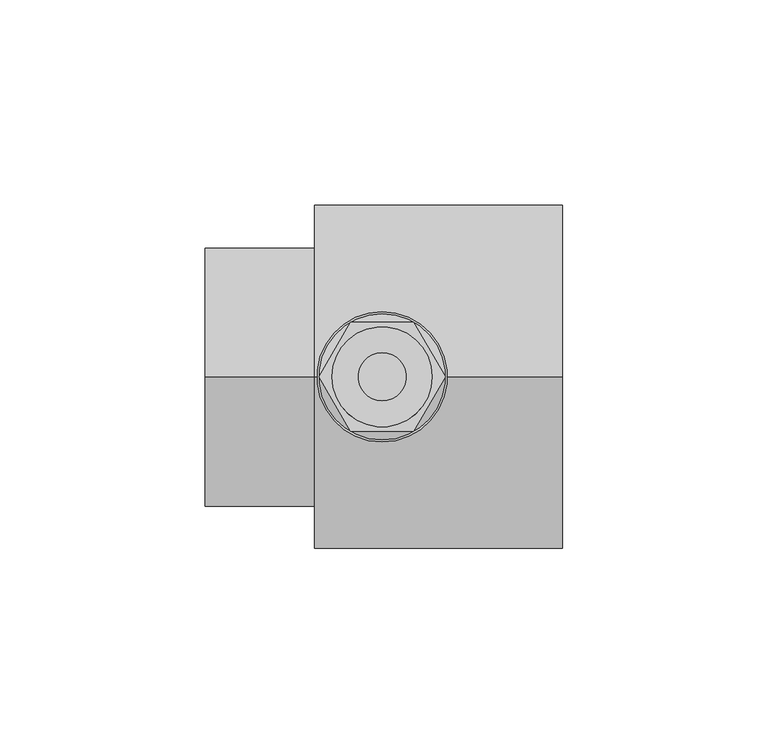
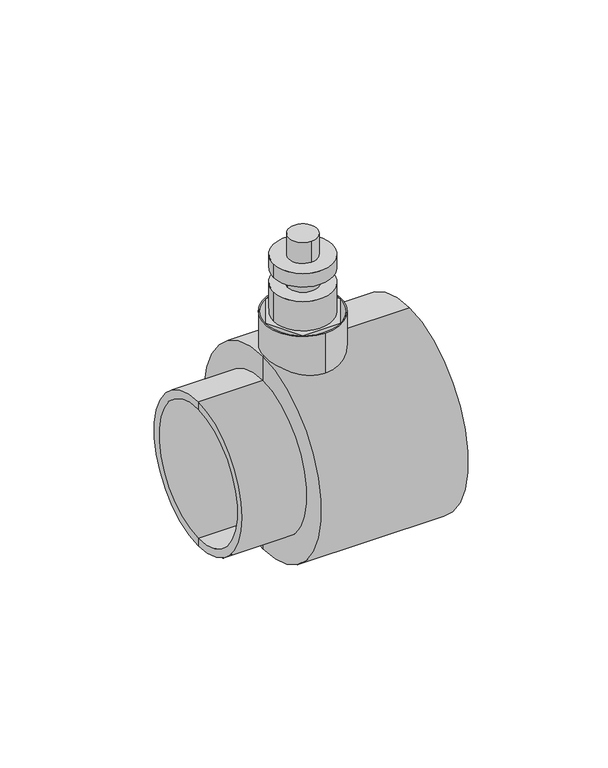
"""IFC4 building model written with IfcOpenShell, lengths in millimetres: valve geometry, Aquatherm - Draining Branch : DRAINING BRANCH."""

from ifc_helpers import new_model, si_unit, point, frame, origin, origin_2d, place, context, project, spatial, polyline, circle_curve, trimmed, segment, composite_curve, outline, extrude, source, transform, mapped, element, save
from ifc_brep_helpers import plane_surface, cylinder_surface, revolved_surface, advanced_brep


def valve_eb03968a(model_context):
    return source(origin(), model_context, "Body", "SolidModel", [
        extrude(outline(composite_curve([segment(trimmed(circle_curve(origin_2d(), 5.842), [point((0.0, 5.842))], [point((0.0, -5.842))], False, "CARTESIAN"), True, "CONTINUOUS"), segment(trimmed(circle_curve(origin_2d(), 5.842), [point((0.0, -5.842))], [point((0.0, 5.842))], False, "CARTESIAN"), True, "CONTINUOUS")], self_intersect=False)), frame((0.0, 0.0, 80.772), z_axis=(0.0, 0.0, 1.0), x_axis=(1.0, 0.0, 0.0)), (0.0, 0.0, 1.0), 9.144),
        extrude(outline(composite_curve([segment(trimmed(circle_curve(origin_2d(), 12.192), [point((12.192, 0.0))], [point((-12.192, 0.0))], False, "CARTESIAN"), True, "CONTINUOUS"), segment(trimmed(circle_curve(origin_2d(), 12.192), [point((-12.192, 0.0))], [point((12.192, 0.0))], False, "CARTESIAN"), True, "CONTINUOUS")], self_intersect=False)), frame((0.0, 0.0, 74.93), z_axis=(0.0, 0.0, 1.0), x_axis=(1.0, 0.0, 0.0)), (0.0, 0.0, 1.0), 5.842),
        extrude(outline(composite_curve([segment(trimmed(circle_curve(origin_2d(), 6.35), [point((6.35, 0.0))], [point((-6.35, 0.0))], False, "CARTESIAN"), True, "CONTINUOUS"), segment(trimmed(circle_curve(origin_2d(), 6.35), [point((-6.35, 0.0))], [point((6.35, 0.0))], False, "CARTESIAN"), True, "CONTINUOUS")], self_intersect=False)), frame((0.0, 0.0, 68.58), z_axis=(0.0, 0.0, 1.0), x_axis=(1.0, 0.0, 0.0)), (0.0, 0.0, 1.0), 6.35),
        extrude(outline(composite_curve([segment(trimmed(circle_curve(origin_2d(), 12.192), [point((12.192, 0.0))], [point((-12.192, 0.0))], False, "CARTESIAN"), True, "CONTINUOUS"), segment(trimmed(circle_curve(origin_2d(), 12.192), [point((-12.192, 0.0))], [point((12.192, 0.0))], False, "CARTESIAN"), True, "CONTINUOUS")], self_intersect=False)), frame((0.0, 0.0, 55.88), z_axis=(0.0, 0.0, 1.0), x_axis=(1.0, 0.0, 0.0)), (0.0, 0.0, 1.0), 12.7),
        extrude(outline(polyline([(15.367, 0.0), (7.6835, -13.3082124), (-7.6835, -13.3082124), (-15.367, 0.0), (-7.6835, 13.3082124), (7.6835, 13.3082124), (15.367, 0.0)])), frame((0.0, 0.0, 52.578), z_axis=(0.0, 0.0, 1.0), x_axis=(1.0, 0.0, 0.0)), (0.0, 0.0, 1.0), 3.302),
        extrude(outline(composite_curve([segment(trimmed(circle_curve(origin_2d(), 15.875), [point((0.0, 15.875))], [point((0.0, -15.875))], False, "CARTESIAN"), True, "CONTINUOUS"), segment(trimmed(circle_curve(origin_2d(), 15.875), [point((0.0, -15.875))], [point((0.0, 15.875))], False, "CARTESIAN"), True, "CONTINUOUS")], self_intersect=False), holes=[composite_curve([segment(trimmed(circle_curve(origin_2d(), 15.367), [point((0.0, 15.367))], [point((0.0, -15.367))], True, "CARTESIAN"), True, "CONTINUOUS"), segment(trimmed(circle_curve(origin_2d(), 15.367), [point((0.0, -15.367))], [point((0.0, 15.367))], True, "CARTESIAN"), True, "CONTINUOUS")], self_intersect=False)]), frame((0.0, 0.0, 28.194), z_axis=(0.0, 0.0, 1.0), x_axis=(1.0, 0.0, 0.0)), (0.0, 0.0, 1.0), 27.686),
        advanced_brep(
        [(-16.51, 0.0, -42.037), (-16.51, 0.0, 42.037), (43.942, 0.0, 42.037), (43.942, 0.0, -42.037), (-16.51, 0.0, -31.496), (-16.51, 0.0, 31.496), (-43.18, 0.0, -31.496), (-43.18, 0.0, 31.496), (-43.18, 0.0, -28.194), (-43.18, 0.0, 28.194), (16.51, 0.0, -28.194), (16.51, 0.0, 28.194), (16.51, 0.0, -31.496), (16.51, 0.0, 31.496), (43.942, 0.0, -31.496), (43.942, 0.0, 31.496)],
        [
            (0, 1, circle_curve(frame((-16.51, 0.0, 0.0), z_axis=(1.0, 0.0, 0.0), x_axis=(0.0, 0.0, 1.0)), 42.037)),
            (1, 2),
            (2, 3, circle_curve(frame((43.942, 0.0, 0.0), z_axis=(-1.0, 0.0, 0.0), x_axis=(0.0, 0.0, 1.0)), 42.037)),
            (3, 0),
            (1, 0, circle_curve(frame((-16.51, 0.0, 0.0), z_axis=(1.0, 0.0, 0.0), x_axis=(0.0, 0.0, 1.0)), 42.037)),
            (3, 2, circle_curve(frame((43.942, 0.0, 0.0), z_axis=(-1.0, 0.0, 0.0), x_axis=(0.0, 0.0, 1.0)), 42.037)),
            (4, 5, circle_curve(frame((-16.51, 0.0, 0.0), z_axis=(1.0, 0.0, 0.0), x_axis=(0.0, 0.0, 1.0)), 31.496)),
            (5, 1),
            (0, 4),
            (5, 4, circle_curve(frame((-16.51, 0.0, 0.0), z_axis=(1.0, 0.0, 0.0), x_axis=(0.0, 0.0, 1.0)), 31.496)),
            (6, 7, circle_curve(frame((-43.18, 0.0, 0.0), z_axis=(1.0, 0.0, 0.0), x_axis=(0.0, 0.0, 1.0)), 31.496)),
            (7, 5),
            (4, 6),
            (7, 6, circle_curve(frame((-43.18, 0.0, 0.0), z_axis=(1.0, 0.0, 0.0), x_axis=(0.0, 0.0, 1.0)), 31.496)),
            (8, 9, circle_curve(frame((-43.18, 0.0, 0.0), z_axis=(1.0, 0.0, 0.0), x_axis=(0.0, 0.0, 1.0)), 28.194)),
            (9, 7),
            (6, 8),
            (9, 8, circle_curve(frame((-43.18, 0.0, 0.0), z_axis=(1.0, 0.0, 0.0), x_axis=(0.0, 0.0, 1.0)), 28.194)),
            (10, 11, circle_curve(frame((16.51, 0.0, 0.0), z_axis=(1.0, 0.0, 0.0), x_axis=(0.0, 0.0, 1.0)), 28.194)),
            (11, 9),
            (8, 10),
            (11, 10, circle_curve(frame((16.51, 0.0, 0.0), z_axis=(1.0, 0.0, 0.0), x_axis=(0.0, 0.0, 1.0)), 28.194)),
            (12, 13, circle_curve(frame((16.51, 0.0, 0.0), z_axis=(1.0, 0.0, 0.0), x_axis=(0.0, 0.0, 1.0)), 31.496)),
            (13, 11),
            (10, 12),
            (13, 12, circle_curve(frame((16.51, 0.0, 0.0), z_axis=(1.0, 0.0, 0.0), x_axis=(0.0, 0.0, 1.0)), 31.496)),
            (14, 15, circle_curve(frame((43.942, 0.0, 0.0), z_axis=(1.0, 0.0, 0.0), x_axis=(0.0, 0.0, 1.0)), 31.496)),
            (15, 13),
            (12, 14),
            (15, 14, circle_curve(frame((43.942, 0.0, 0.0), z_axis=(1.0, 0.0, 0.0), x_axis=(0.0, 0.0, 1.0)), 31.496)),
            (2, 15),
            (14, 3),
        ],
        [
            cylinder_surface(frame((-49.53, 0.0, 0.0), z_axis=(-1.0, 0.0, 0.0), x_axis=(0.0, 0.0, 1.0)), 42.037),
            plane_surface(frame((-16.51, 0.0, 0.0), z_axis=(-1.0, 0.0, 0.0), x_axis=(0.0, 0.0, 1.0))),
            cylinder_surface(frame((-49.53, 0.0, 0.0), z_axis=(-1.0, 0.0, 0.0), x_axis=(0.0, 0.0, 1.0)), 31.496),
            plane_surface(frame((-43.18, 0.0, 0.0), z_axis=(-1.0, 0.0, 0.0), x_axis=(0.0, 0.0, 1.0))),
            revolved_surface(polyline([(-43.18, 0.0, 28.194), (16.510000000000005, 0.0, 28.194)]), (-49.53, 0.0, 0.0), (-1.0, 0.0, 0.0)),
            plane_surface(frame((16.51, 0.0, 0.0), z_axis=(1.0, 0.0, 0.0), x_axis=(0.0, 0.0, 1.0))),
            revolved_surface(polyline([(16.510000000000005, 0.0, 31.496), (43.94200000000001, 0.0, 31.496)]), (-49.53, 0.0, 0.0), (-1.0, 0.0, 0.0)),
            plane_surface(frame((43.942, 0.0, 0.0), z_axis=(1.0, 0.0, 0.0), x_axis=(0.0, 0.0, 1.0))),
        ],
        [
            (0, [[1, 2, 3, 4]]),
            (0, [[5, -4, 6, -2]]),
            (1, [[7, 8, -1, 9]]),
            (1, [[10, -9, -5, -8]]),
            (2, [[11, 12, -7, 13]]),
            (2, [[14, -13, -10, -12]]),
            (3, [[15, 16, -11, 17]]),
            (3, [[18, -17, -14, -16]]),
            (4, [[19, 20, -15, 21]]),
            (4, [[22, -21, -18, -20]]),
            (5, [[23, 24, -19, 25]]),
            (5, [[26, -25, -22, -24]]),
            (6, [[27, 28, -23, 29]]),
            (6, [[30, -29, -26, -28]]),
            (7, [[-3, 31, -27, 32]]),
            (7, [[-6, -32, -30, -31]]),
        ],
    ),
    ])


if __name__ == "__main__":
    model = new_model("IFC4")
    model_context = context("Model", 3, world=origin())
    ifc_project = project(units=[si_unit("LENGTHUNIT", "METRE", prefix="MILLI")], contexts=[model_context])
    site = spatial("IfcSite", under=ifc_project)
    building = spatial("IfcBuilding", under=site)
    placement = place(None, origin())
    valve_shape = valve_eb03968a(model_context)
    element("IfcValve", 1, ObjectType="Aquatherm - Draining Branch : DRAINING BRANCH", at=placement, inside=building, context=model_context, shape_type="MappedRepresentation", body=[
        mapped(valve_shape, transform((0.0, 0.0, 0.0), x_axis=(1.0, 0.0, 0.0), y_axis=(0.0, 1.0, 0.0), z_axis=(0.0, 0.0, 1.0))),
    ])
    save(model, "model.ifc")
